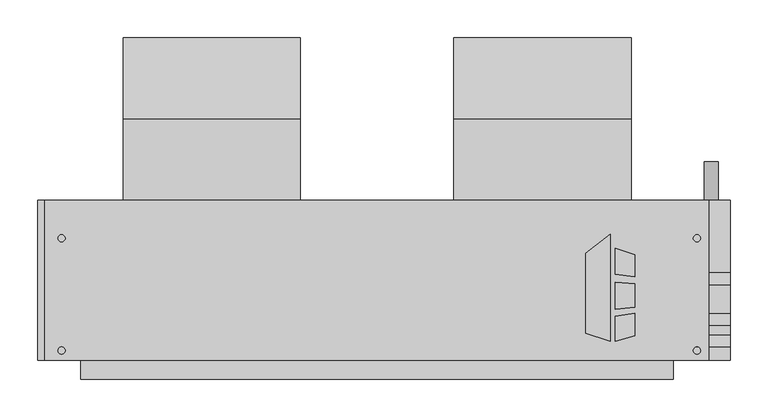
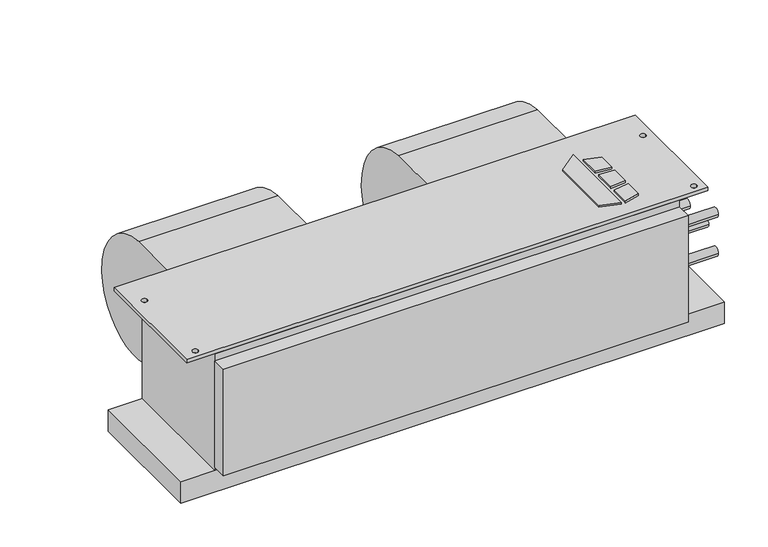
"""IFC4 building model written with IfcOpenShell, lengths in millimetres: proxy geometry, Concealed_Horizontal_Fan_Coil_Unit_-_CHY_-_IEC_-_4-Pipe_RH_2022 : Size 06 - 277v/60Hz/1Ph - 4/1 Coil."""

from ifc_helpers import new_model, si_unit, point, frame, frame_2d, origin, origin_with_axes, place, context, project, spatial, polyline, circle_curve, trimmed, segment, composite_curve, outline, extrude, source, transform, mapped, element, save


def mechanical_equipment_a667337c(model_context):
    return source(origin(), model_context, "Body", "SweptSolid", [
        extrude(outline(polyline([(429.9019761, -202.5703476), (462.4602728, -177.1330184), (462.4602728, -319.0875), (429.9019761, -308.8679201), (429.9019761, -202.5703476)])), origin_with_axes(), (0.0, 0.0, 1.0), 3.175),
        extrude(outline(polyline([(469.2186058, -230.442352), (469.2186058, -195.9624379), (495.3, -204.1490115), (495.3, -233.6447446), (469.2186058, -230.442352)])), origin_with_axes(), (0.0, 0.0, 1.0), 3.175),
        extrude(outline(polyline([(495.3, -312.0990115), (469.2186058, -319.0875), (469.2186058, -285.8661996), (495.3, -282.3243564), (495.3, -312.0990115)])), origin_with_axes(), (0.0, 0.0, 1.0), 3.175),
        extrude(outline(polyline([(495.3, -242.7263277), (495.3, -273.976483), (469.2186058, -276.717748), (469.2186058, -240.8600378), (495.3, -242.7263277)])), origin_with_axes(), (0.0, 0.0, 1.0), 3.175),
        extrude(outline(composite_curve([segment(trimmed(circle_curve(frame_2d((-33.198831, -136.0299844)), 117.3559541), [point((-23.8125, -19.05))], [point((84.1375, -138.176))], False, "CARTESIAN"), True, "CONTINUOUS"), segment(trimmed(circle_curve(frame_2d((-11.5977337, -136.4250563)), 95.7512443), [point((84.1375, -138.176))], [point((-23.8125, -231.394))], False, "CARTESIAN"), True, "CONTINUOUS"), segment(trimmed(circle_curve(frame_2d((-11.6288131, -136.6666968)), 95.5076133), [point((-23.8125, -231.394))], [point((-107.1245, -138.176))], False, "CARTESIAN"), True, "CONTINUOUS"), segment(trimmed(circle_curve(frame_2d((-126.2059828, -138.4775816)), 19.0838659), [point((-107.1245, -138.176))], [point((-119.3963373, -120.65))], True, "CARTESIAN"), True, "CONTINUOUS"), segment(polyline([(-119.3963373, -120.65), (-131.7625, -120.65), (-131.7625, -19.05), (-23.8125, -19.05)]), True, "CONTINUOUS")], self_intersect=False)), frame((254.8255, 0.0, 0.0), z_axis=(1.0, 0.0, 0.0), x_axis=(0.0, 1.0, 0.0)), (0.0, 0.0, 1.0), 235.712),
        extrude(outline(composite_curve([segment(trimmed(circle_curve(frame_2d((-33.198831, -136.0299844)), 117.3559541), [point((-23.8125, -19.05))], [point((84.1375, -138.176))], False, "CARTESIAN"), True, "CONTINUOUS"), segment(trimmed(circle_curve(frame_2d((-11.5977337, -136.4250563)), 95.7512443), [point((84.1375, -138.176))], [point((-23.8125, -231.394))], False, "CARTESIAN"), True, "CONTINUOUS"), segment(trimmed(circle_curve(frame_2d((-11.6288131, -136.6666968)), 95.5076133), [point((-23.8125, -231.394))], [point((-107.1245, -138.176))], False, "CARTESIAN"), True, "CONTINUOUS"), segment(trimmed(circle_curve(frame_2d((-126.2059828, -138.4775816)), 19.0838659), [point((-107.1245, -138.176))], [point((-119.3963373, -120.65))], True, "CARTESIAN"), True, "CONTINUOUS"), segment(polyline([(-119.3963373, -120.65), (-131.7625, -120.65), (-131.7625, -19.05), (-23.8125, -19.05)]), True, "CONTINUOUS")], self_intersect=False)), frame((-184.912, 0.0, 0.0), z_axis=(1.0, 0.0, 0.0), x_axis=(0.0, 1.0, 0.0)), (0.0, 0.0, 1.0), 235.712),
        extrude(outline(polyline([(593.725, -131.7625), (593.725, -344.4875), (-288.925, -344.4875), (-288.925, -131.7625), (593.725, -131.7625)]), holes=[composite_curve([segment(trimmed(circle_curve(frame_2d((-266.7, -182.5625)), 4.7625), [point((-271.4625, -182.5625))], [point((-261.9375, -182.5625))], True, "CARTESIAN"), True, "CONTINUOUS"), segment(trimmed(circle_curve(frame_2d((-266.7, -182.5625)), 4.7625), [point((-261.9375, -182.5625))], [point((-271.4625, -182.5625))], True, "CARTESIAN"), True, "CONTINUOUS")], self_intersect=False), composite_curve([segment(trimmed(circle_curve(frame_2d((-266.7, -331.7875)), 4.7625), [point((-271.4625, -331.7875))], [point((-261.9375, -331.7875))], True, "CARTESIAN"), True, "CONTINUOUS"), segment(trimmed(circle_curve(frame_2d((-266.7, -331.7875)), 4.7625), [point((-261.9375, -331.7875))], [point((-271.4625, -331.7875))], True, "CARTESIAN"), True, "CONTINUOUS")], self_intersect=False), composite_curve([segment(trimmed(circle_curve(frame_2d((577.85, -182.5625)), 4.7625), [point((573.0875, -182.5625))], [point((582.6125, -182.5625))], True, "CARTESIAN"), True, "CONTINUOUS"), segment(trimmed(circle_curve(frame_2d((577.85, -182.5625)), 4.7625), [point((582.6125, -182.5625))], [point((573.0875, -182.5625))], True, "CARTESIAN"), True, "CONTINUOUS")], self_intersect=False), composite_curve([segment(trimmed(circle_curve(frame_2d((577.85, -331.7875)), 4.7625), [point((573.0875, -331.7875))], [point((582.6125, -331.7875))], True, "CARTESIAN"), True, "CONTINUOUS"), segment(trimmed(circle_curve(frame_2d((577.85, -331.7875)), 4.7625), [point((582.6125, -331.7875))], [point((573.0875, -331.7875))], True, "CARTESIAN"), True, "CONTINUOUS")], self_intersect=False)]), frame((0.0, 0.0, -6.35), z_axis=(0.0, 0.0, 1.0), x_axis=(1.0, 0.0, 0.0)), (0.0, 0.0, 1.0), 6.35),
        extrude(outline(composite_curve([segment(trimmed(circle_curve(frame_2d((-241.3, 596.9)), 9.525), [point((-241.3, 587.375))], [point((-241.3, 606.425))], False, "CARTESIAN"), True, "CONTINUOUS"), segment(trimmed(circle_curve(frame_2d((-241.3, 596.9)), 9.525), [point((-241.3, 606.425))], [point((-241.3, 587.375))], False, "CARTESIAN"), True, "CONTINUOUS")], self_intersect=False)), frame((0.0, -131.7625, 0.0), z_axis=(0.0, 1.0, 0.0), x_axis=(0.0, 0.0, 1.0)), (0.0, 0.0, 1.0), 50.8),
        extrude(outline(polyline([(546.1, -369.8875), (-241.3, -369.8875), (-241.3, -344.4875), (546.1, -344.4875), (546.1, -369.8875)])), frame((0.0, 0.0, -209.55), z_axis=(0.0, 0.0, 1.0), x_axis=(1.0, 0.0, 0.0)), (0.0, 0.0, 1.0), 190.5),
        extrude(outline(polyline([(622.3, -131.7625), (622.3, -344.4875), (-298.45, -344.4875), (-298.45, -131.7625), (622.3, -131.7625)])), frame((0.0, 0.0, -254.0), z_axis=(0.0, 0.0, 1.0), x_axis=(1.0, 0.0, 0.0)), (0.0, 0.0, 1.0), 38.1),
        extrude(outline(composite_curve([segment(trimmed(circle_curve(frame_2d((-236.5375, -104.775)), 7.9375), [point((-244.475, -104.775))], [point((-228.6, -104.775))], False, "CARTESIAN"), True, "CONTINUOUS"), segment(trimmed(circle_curve(frame_2d((-236.5375, -104.775)), 7.9375), [point((-228.6, -104.775))], [point((-244.475, -104.775))], False, "CARTESIAN"), True, "CONTINUOUS")], self_intersect=False)), frame((546.1, 0.0, 0.0), z_axis=(1.0, 0.0, 0.0), x_axis=(0.0, 1.0, 0.0)), (0.0, 0.0, 1.0), 76.2),
        extrude(outline(composite_curve([segment(trimmed(circle_curve(frame_2d((-290.5125, -104.775)), 7.9375), [point((-298.45, -104.775))], [point((-282.575, -104.775))], False, "CARTESIAN"), True, "CONTINUOUS"), segment(trimmed(circle_curve(frame_2d((-290.5125, -104.775)), 7.9375), [point((-282.575, -104.775))], [point((-298.45, -104.775))], False, "CARTESIAN"), True, "CONTINUOUS")], self_intersect=False)), frame((546.1, 0.0, 0.0), z_axis=(1.0, 0.0, 0.0), x_axis=(0.0, 1.0, 0.0)), (0.0, 0.0, 1.0), 76.2),
        extrude(outline(composite_curve([segment(trimmed(circle_curve(frame_2d((-319.0875, -69.85)), 7.9375), [point((-327.025, -69.85))], [point((-311.15, -69.85))], False, "CARTESIAN"), True, "CONTINUOUS"), segment(trimmed(circle_curve(frame_2d((-319.0875, -69.85)), 7.9375), [point((-311.15, -69.85))], [point((-327.025, -69.85))], False, "CARTESIAN"), True, "CONTINUOUS")], self_intersect=False)), frame((546.1, 0.0, 0.0), z_axis=(1.0, 0.0, 0.0), x_axis=(0.0, 1.0, 0.0)), (0.0, 0.0, 1.0), 76.2),
        extrude(outline(composite_curve([segment(trimmed(circle_curve(frame_2d((-319.0875, -139.7)), 7.9375), [point((-327.025, -139.7))], [point((-311.15, -139.7))], False, "CARTESIAN"), True, "CONTINUOUS"), segment(trimmed(circle_curve(frame_2d((-319.0875, -139.7)), 7.9375), [point((-311.15, -139.7))], [point((-327.025, -139.7))], False, "CARTESIAN"), True, "CONTINUOUS")], self_intersect=False)), frame((546.1, 0.0, 0.0), z_axis=(1.0, 0.0, 0.0), x_axis=(0.0, 1.0, 0.0)), (0.0, 0.0, 1.0), 76.2),
        extrude(outline(polyline([(546.1, -344.4875), (-241.3, -344.4875), (-241.3, -131.7625), (546.1, -131.7625), (546.1, -344.4875)])), frame((0.0, 0.0, -215.9), z_axis=(0.0, 0.0, 1.0), x_axis=(1.0, 0.0, 0.0)), (0.0, 0.0, 1.0), 209.55),
    ])


if __name__ == "__main__":
    model = new_model("IFC4")
    model_context = context("Model", 3, world=origin())
    ifc_project = project(units=[si_unit("LENGTHUNIT", "METRE", prefix="MILLI")], contexts=[model_context])
    site = spatial("IfcSite", under=ifc_project)
    building = spatial("IfcBuilding", under=site)
    placement = place(None, origin())
    mechanical_equipment_shape = mechanical_equipment_a667337c(model_context)
    element("IfcBuildingElementProxy", 1, Name="Concealed_Horizontal_Fan_Coil_Unit_-_CHY_-_IEC_-_4-Pipe_RH_2022 : Size 06 - 277v/60Hz/1Ph - 4/1 Coil", ObjectType="Concealed_Horizontal_Fan_Coil_Unit_-_CHY_-_IEC_-_4-Pipe_RH_2022 : Size 06 - 277v/60Hz/1Ph - 4/1 Coil", at=placement, inside=building, context=model_context, shape_type="MappedRepresentation", body=[
        mapped(mechanical_equipment_shape, transform((0.0, 0.0, 0.0), x_axis=(1.0, 0.0, 0.0), y_axis=(0.0, 1.0, 0.0), z_axis=(0.0, 0.0, 1.0))),
    ])
    save(model, "model.ifc")
